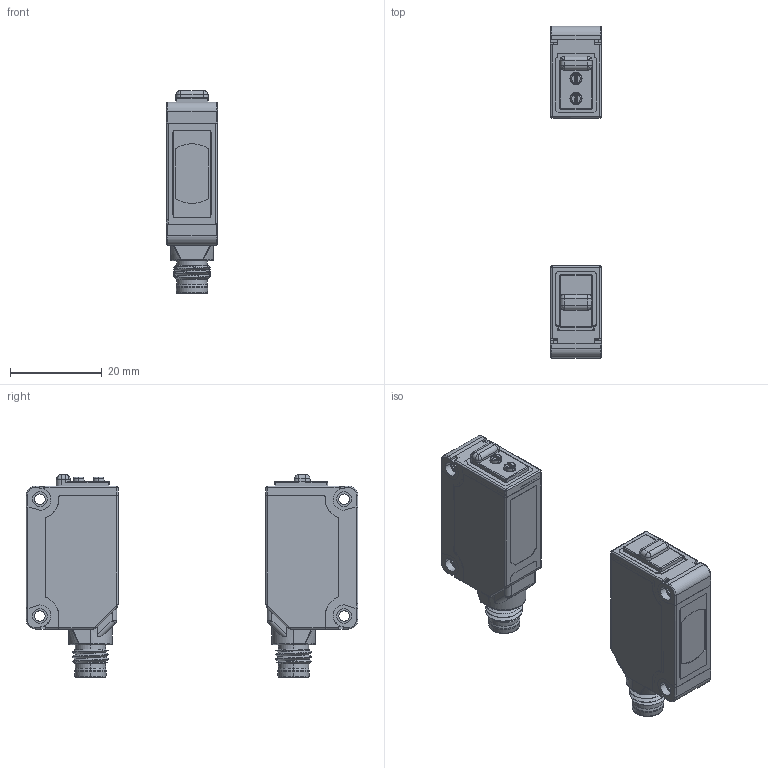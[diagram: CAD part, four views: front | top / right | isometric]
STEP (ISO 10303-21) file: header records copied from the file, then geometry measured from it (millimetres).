
FILE_DESCRIPTION (( 'STEP AP214' ), '1' );
FILE_NAME ('PF31V-22.STEP', '2025-08-22T03:56:43', ( 'Windows User' ), ( 'P R C' ), 'SwSTEP 2.0', 'SolidWorks 2023', '' );
FILE_SCHEMA (( 'AUTOMOTIVE_DESIGN' ));
Length unit declared in the file: millimetre
Products named in the file (14): PF31-CHAZHEN_EE_4.STEP; PF31-KETI_EE_2.STEP; TIAOJIEB_J_EE_2.STEP; PF31-TOUJING_EE_2.STEP; PF31V-22; PF31-E-CHAJIAN_EE_4.STEP; PF31-DENGHZAO_EE_2.STEP; ROU-PCB_EE_2.STEP; PF31-CHAJIAN-RR_EE_4.STEP; PCB_EE_2.STEP; PF31V-D01BNS-E1.STEP; BAOJIAO_EE_2.STEP; PF31-DUISHE_J_EE_2.STEP; 装配体135-1
Assembly tree (17 placements, depth 3):
  PF31V-22
    PF31V-D01BNS-E1.STEP
      PF31-KETI_EE_2.STEP
      PF31-E-CHAJIAN_EE_4.STEP
      PF31-DUISHE_J_EE_2.STEP
      PF31-CHAZHEN_EE_4.STEP  x4
      PF31-DENGHZAO_EE_2.STEP
      PF31-TOUJING_EE_2.STEP
      TIAOJIEB_J_EE_2.STEP  x2
      PCB_EE_2.STEP
      ROU-PCB_EE_2.STEP
      BAOJIAO_EE_2.STEP
      PF31-CHAJIAN-RR_EE_4.STEP
    装配体135-1
Bounding box: 11.1 x 72.18 x 44.1 mm (x, y, z)
Volume: 9332.7 mm3; surface area: 20830.7 mm2
Topology: 51 solids, 55 shells, 3551 faces, 9592 edges, 6175 vertices
Faces by surface type: plane 2308, cylinder 870, bspline 225, cone 106, torus 32, sphere 10
Entity records: 122134 total; most frequent: CARTESIAN_POINT 37446, ORIENTED_EDGE 18558, DIRECTION 15617, EDGE_CURVE 9279, LINE 6693, VECTOR 6693, VERTEX_POINT 6035, AXIS2_PLACEMENT_3D 4462
